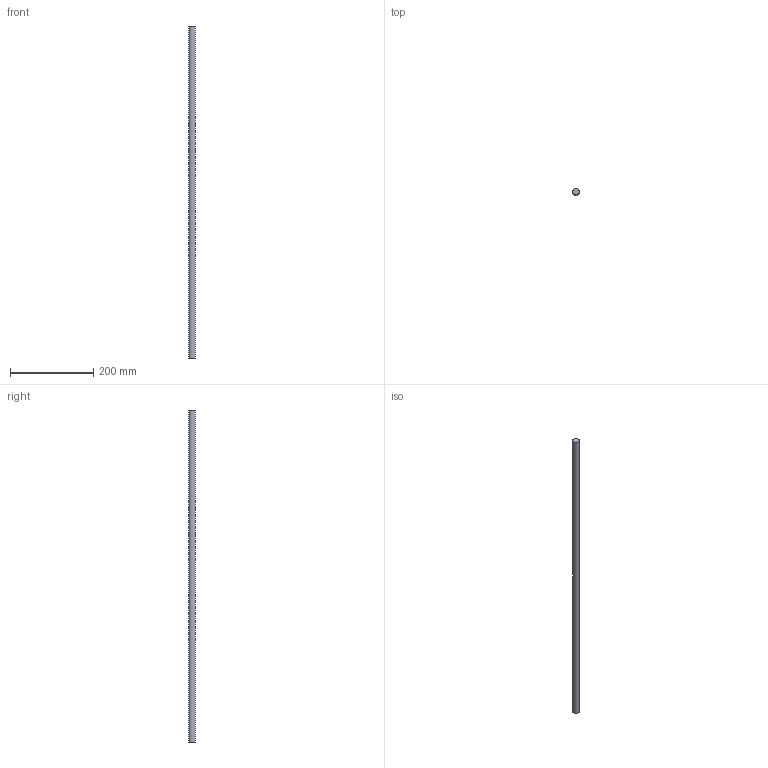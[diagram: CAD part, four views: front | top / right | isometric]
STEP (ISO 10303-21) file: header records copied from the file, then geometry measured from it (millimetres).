
FILE_DESCRIPTION(/* description */ (''),/* implementation_level */ '2;1');
FILE_NAME(/* name */ 'C:\Users\David\Desktop\stepFiles\Profilfuehrung\WF16x800.stp',/* time_stamp */ '2018-06-24T15:46:55+02:00',/* author */ ('David'),/* organization */ (''),/* preprocessor_version */ 'ST-DEVELOPER v17',/* originating_system */ 'Autodesk Inventor 2019',/* authorisation */ '');
FILE_SCHEMA (('AUTOMOTIVE_DESIGN { 1 0 10303 214 3 1 1 }'));
Length unit declared in the file: millimetre
Products named in the file (1): Wellenfuehrung
Bounding box: 16 x 16 x 800 mm (x, y, z)
Volume: 160849.5 mm3; surface area: 40614.5 mm2
Topology: 1 solids, 1 shells, 3 faces, 3 edges, 2 vertices
Faces by surface type: plane 2, cylinder 1
Full cylindrical faces by diameter (mm): 16 x1
Entity records: 98 total; most frequent: DIRECTION 13, CARTESIAN_POINT 9, ORIENTED_EDGE 6, AXIS2_PLACEMENT_3D 6, FACE_OUTER_BOUND 3, EDGE_LOOP 3, EDGE_CURVE 3, ADVANCED_FACE 3
